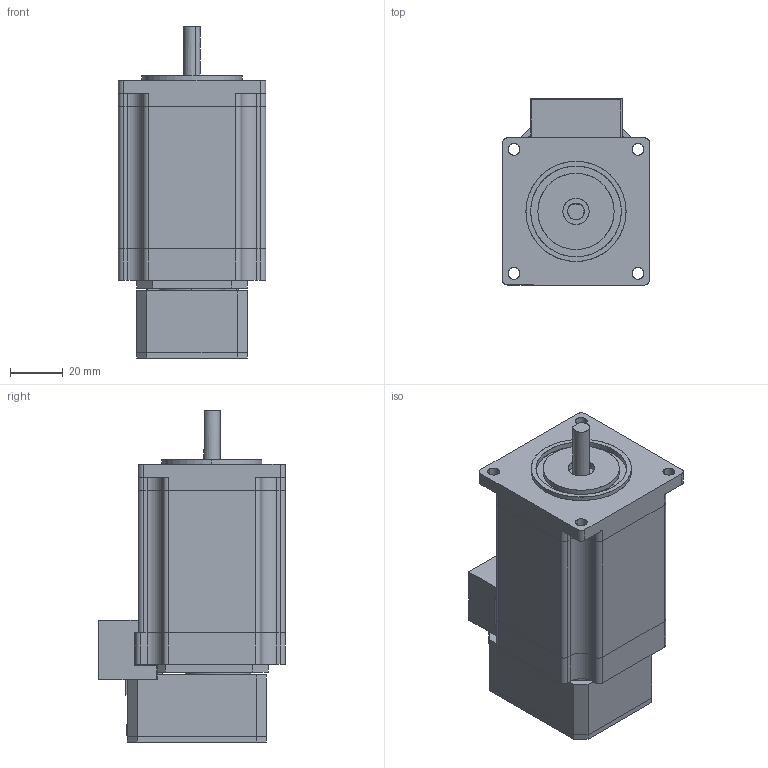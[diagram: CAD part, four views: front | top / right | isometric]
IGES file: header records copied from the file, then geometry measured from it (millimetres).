
Start section: SolidWorks IGES file using analytic representation for surfaces
Global section: file name: C:\Users\render\Documents\CAD Files\CoolmuscleMotors\CM1 Series CAD\CM1-23L\CM1-X-23L20.IGS; native system: SolidWorks 2009; preprocessor: SolidWorks 2009; author: render; date: 100714.154919; units: millimetre
Bounding box: 56.02 x 71.02 x 126.3 mm (x, y, z)
Surface area: 62392.9 mm2 (no closed solid volume)
Topology: 0 solids, 0 shells, 696 faces, 6678 edges, 6678 vertices
Faces by surface type: bspline 535, revolution 161
